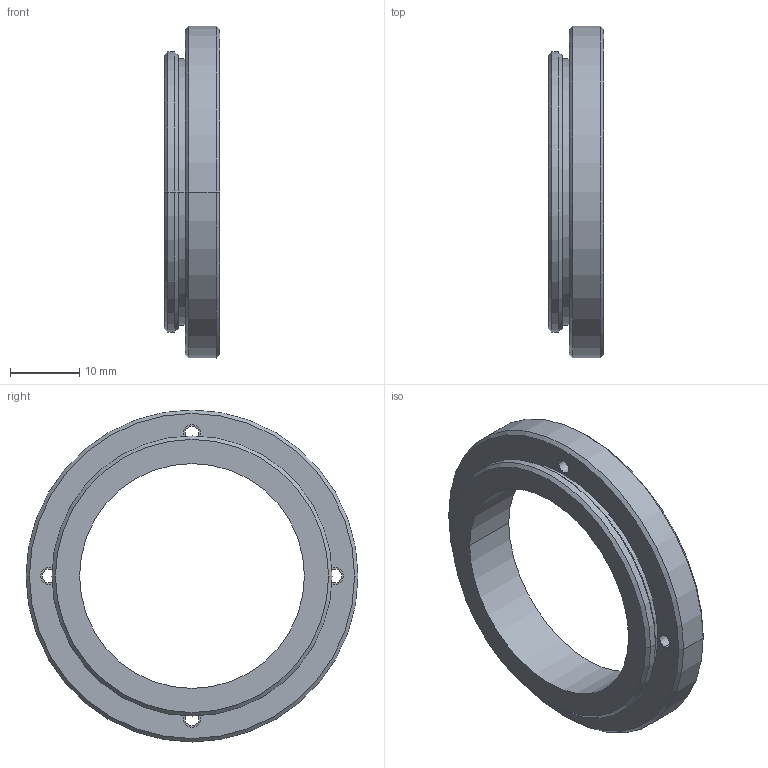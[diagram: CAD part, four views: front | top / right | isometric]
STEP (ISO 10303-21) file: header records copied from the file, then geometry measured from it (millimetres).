
FILE_DESCRIPTION(/* description */ ('VariCAD 2010-2.03 AP-203'),/* implementation_level */ '2;1');
FILE_NAME(/* name */ '0353-40-10',/* time_stamp */ '2010-04-02T14:33:44-06:00',/* author */ (''),/* organization */ (''),/* preprocessor_version */ 'ST-DEVELOPER v12',/* originating_system */ 'VariCAD 2010-2.03; kernel version (20100102)',/* authorisation */ '');
FILE_SCHEMA (('CONFIG_CONTROL_DESIGN'));
Length unit declared in the file: millimetre
Products named in the file (1): Part
Bounding box: 8 x 48 x 48 mm (x, y, z)
Volume: 6018.4 mm3; surface area: 4402.1 mm2
Topology: 5 solids, 5 shells, 56 faces, 120 edges, 72 vertices
Faces by surface type: cylinder 32, cone 16, plane 8
Entity records: 1622 total; most frequent: DIRECTION 316, CARTESIAN_POINT 254, ORIENTED_EDGE 240, AXIS2_PLACEMENT_3D 134, EDGE_CURVE 120, EDGE_LOOP 72, CIRCLE 72, VERTEX_POINT 72
